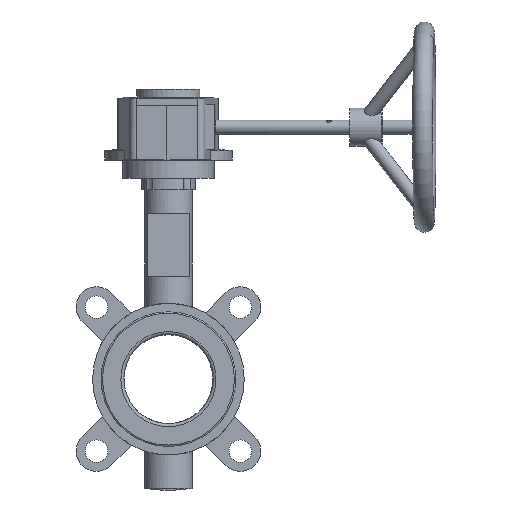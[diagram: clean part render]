
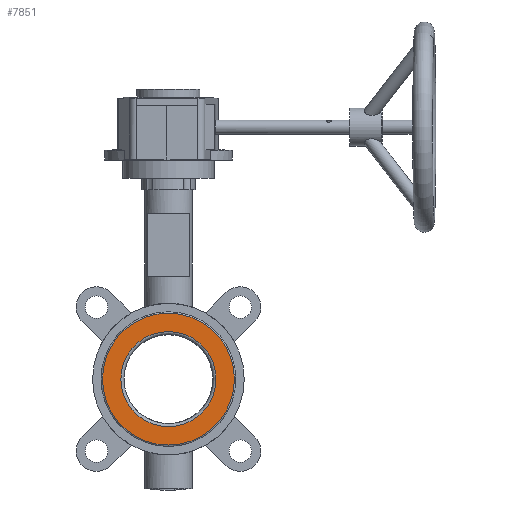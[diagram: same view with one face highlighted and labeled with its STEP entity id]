
A CAD part, front view. The second image highlights one B-rep face of the part: STEP entity #7851.
In plain terms, the highlighted planar face has unit normal (0, -1, 0) as drawn and (1, 0, 0) by its records, which use the part's own axes.
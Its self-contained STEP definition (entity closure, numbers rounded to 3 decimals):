
#591 = DIRECTION ( 'NONE',  ( -1., 0., 0. ) ) ;
#856 = DIRECTION ( 'NONE',  ( 0., 0., 1. ) ) ;
#1490 = EDGE_CURVE ( 'NONE', #3159, #3159, #1803, .T. ) ;
#1803 = CIRCLE ( 'NONE', #4301, 47. ) ;
#1875 = AXIS2_PLACEMENT_3D ( 'NONE', #3277, #5912, #856 ) ;
#2623 = DIRECTION ( 'NONE',  ( 1., 0., 0. ) ) ;
#2985 = CARTESIAN_POINT ( 'NONE',  ( 25., 0., 47. ) ) ;
#3159 = VERTEX_POINT ( 'NONE', #2985 ) ;
#3277 = CARTESIAN_POINT ( 'NONE',  ( 25., 0., 0. ) ) ;
#3354 = DIRECTION ( 'NONE',  ( 0., 0., 1. ) ) ;
#4301 = AXIS2_PLACEMENT_3D ( 'NONE', #9040, #591, #3354 ) ;
#4563 = ORIENTED_EDGE ( 'NONE', *, *, #7537, .T. ) ;
#4671 = PLANE ( 'NONE',  #6032 ) ;
#4687 = CARTESIAN_POINT ( 'NONE',  ( 25., 0., 33.89 ) ) ;
#4768 = CARTESIAN_POINT ( 'NONE',  ( 25., 0., 0. ) ) ;
#5057 = EDGE_LOOP ( 'NONE', ( #5432 ) ) ;
#5118 = FACE_BOUND ( 'NONE', #7955, .T. ) ;
#5432 = ORIENTED_EDGE ( 'NONE', *, *, #1490, .F. ) ;
#5912 = DIRECTION ( 'NONE',  ( -1., 0., 0. ) ) ;
#6032 = AXIS2_PLACEMENT_3D ( 'NONE', #4768, #2623, #7498 ) ;
#7498 = DIRECTION ( 'NONE',  ( 0., 0., -1. ) ) ;
#7537 = EDGE_CURVE ( 'NONE', #8336, #8336, #7972, .T. ) ;
#7851 = ADVANCED_FACE ( 'NONE', ( #5118, #8408 ), #4671, .T. ) ;
#7955 = EDGE_LOOP ( 'NONE', ( #4563 ) ) ;
#7972 = CIRCLE ( 'NONE', #1875, 33.89 ) ;
#8336 = VERTEX_POINT ( 'NONE', #4687 ) ;
#8408 = FACE_OUTER_BOUND ( 'NONE', #5057, .T. ) ;
#9040 = CARTESIAN_POINT ( 'NONE',  ( 25., 0., 0. ) ) ;
